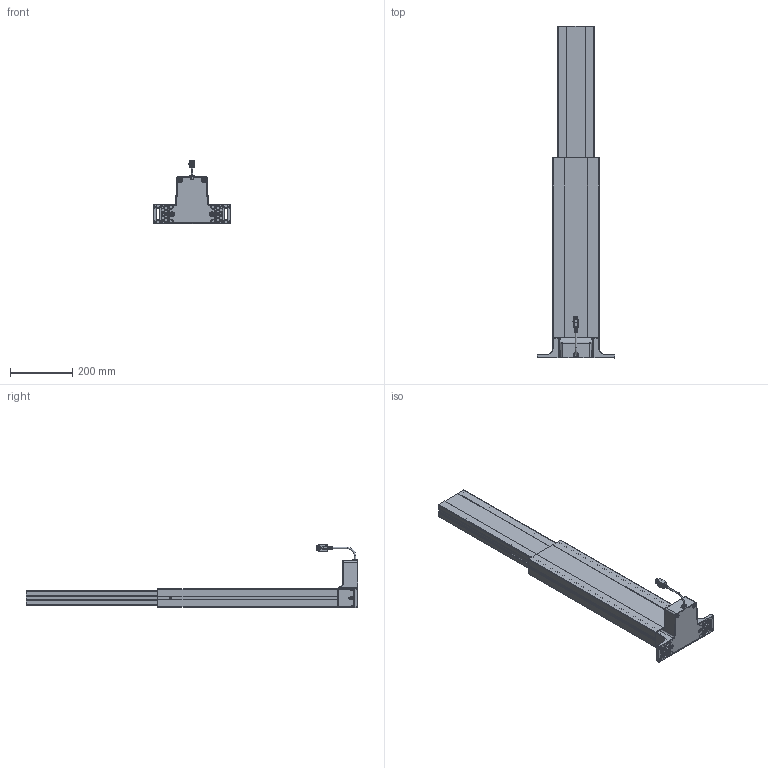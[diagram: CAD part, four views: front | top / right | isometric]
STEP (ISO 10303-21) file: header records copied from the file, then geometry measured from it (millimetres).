
FILE_DESCRIPTION(/* description */ ('Unknown'),/* implementation_level */ '2;1');
FILE_NAME(/* name */ '909.01004_01_ausgefahren',/* time_stamp */ '2021-10-04T12:10:53+02:00',/* author */ ('Unknown'),/* organization */ ('Unknown'),/* preprocessor_version */ 'ST-DEVELOPER v16.7',/* originating_system */ 'Solid Edge',/* authorisation */ 'Unknown');
FILE_SCHEMA (('AUTOMOTIVE_DESIGN {1 0 10303 214 3 1 1}'));
Products named in the file (9): 909.01004; 126.00190; 119.00556; 124.00124; 128.00075; 119.00555; Kabel Molex; 142.00341; 142.00166
Assembly tree (18 placements, depth 2):
  909.01004
    126.00190
    119.00556
    124.00124
    128.00075
    119.00555
    Kabel Molex
    142.00341  x4
    142.00166  x8
Bounding box: 250.17 x 1070 x 203.2 mm (x, y, z)
Volume: 2028077.6 mm3; surface area: 1176978.6 mm2
Topology: 18 solids, 18 shells, 5829 faces, 14099 edges, 8092 vertices
Faces by surface type: cylinder 2085, bspline 1995, plane 1315, torus 260, cone 116, sphere 58
Full cylindrical faces by diameter (mm): 1.95 x3, 3 x3, 3.242 x4, 4 x4, 4.7 x4, 5 x10, 7 x4, 8.5 x8, 14 x1, 30 x2
Entity records: 425753 total; most frequent: CARTESIAN_POINT 271029, ORIENTED_EDGE 26630, DIRECTION 21700, EDGE_CURVE 13315, AXIS2_PLACEMENT_3D 8378, VERTEX_POINT 7863, EDGE_LOOP 5938, FACE_BOUND 5938
